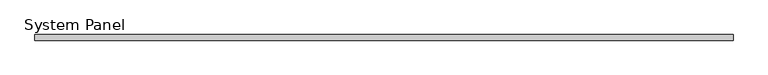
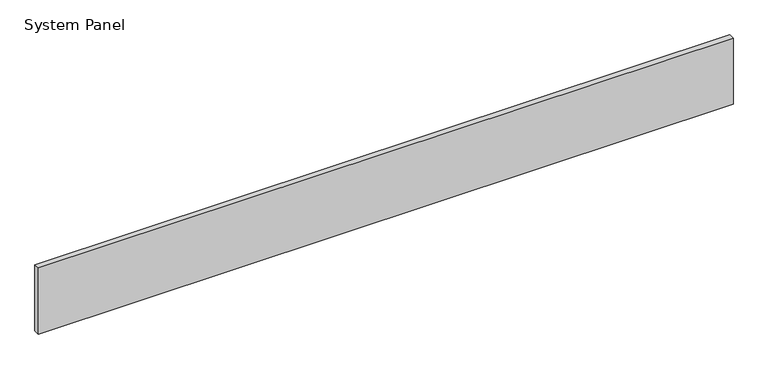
"""IFC4 building model written with IfcOpenShell, lengths in millimetres: plate geometry, System Panel : VACÍO."""

from ifc_helpers import new_model, si_unit, origin, origin_with_axes, place, context, project, spatial, polyline, outline, extrude, source, transform, mapped, element, save


def system_panel_1891fa89(model_context):
    return source(origin(), model_context, "Body", "SweptSolid", [
        extrude(outline(polyline([(619.0, -5.0), (-619.0, -5.0), (-619.0, 5.0), (619.0, 5.0), (619.0, -5.0)])), origin_with_axes(), (0.0, 0.0, 1.0), 124.8888889),
    ])


if __name__ == "__main__":
    model = new_model("IFC4")
    model_context = context("Model", 3, world=origin())
    ifc_project = project(units=[si_unit("LENGTHUNIT", "METRE", prefix="MILLI")], contexts=[model_context])
    site = spatial("IfcSite", under=ifc_project)
    building = spatial("IfcBuilding", under=site)
    placement = place(None, origin())
    system_panel_shape = system_panel_1891fa89(model_context)
    element("IfcPlate", 1, ObjectType="System Panel : VACÍO", at=placement, inside=building, context=model_context, shape_type="MappedRepresentation", body=[
        mapped(system_panel_shape, transform((0.0, 0.0, 0.0), x_axis=(1.0, 0.0, 0.0), y_axis=(0.0, 1.0, 0.0), z_axis=(0.0, 0.0, 1.0))),
    ])
    save(model, "model.ifc")
